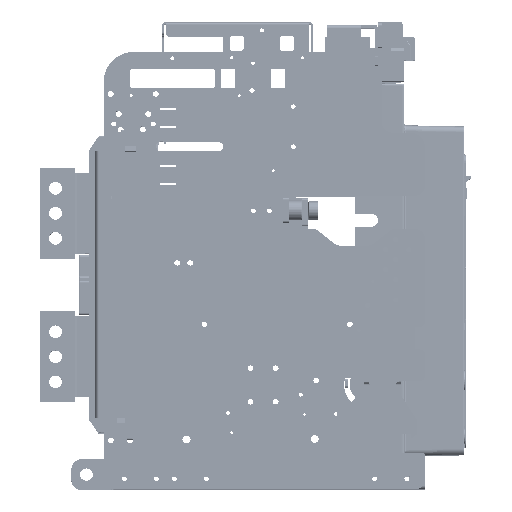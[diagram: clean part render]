
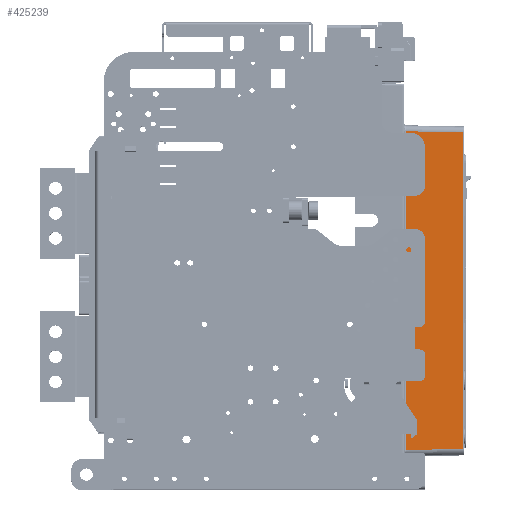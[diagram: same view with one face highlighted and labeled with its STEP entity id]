
A CAD part, top view. The second image highlights one B-rep face of the part: STEP entity #425239.
In plain terms, the highlighted planar face has unit normal (0.018, 0, 1) as drawn and (-1, 0, 0.017) by its records, which use the part's own axes.
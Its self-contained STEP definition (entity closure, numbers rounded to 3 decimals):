
#406619=DIRECTION('',(0.,-1.,0.));
#406620=VECTOR('',#406619,315.942);
#406621=CARTESIAN_POINT('',(-133.97,144.321,
108.017));
#406622=LINE('',#406621,#406620);
#406623=DIRECTION('',(0.017,0.017,1.));
#406624=VECTOR('',#406623,57.07);
#406625=CARTESIAN_POINT('',(-134.966,-172.617,
50.965));
#406626=LINE('',#406625,#406624);
#406627=DIRECTION('',(0.,1.,0.));
#406628=VECTOR('',#406627,317.934);
#406629=CARTESIAN_POINT('',(-134.966,-172.617,
50.965));
#406630=LINE('',#406629,#406628);
#406631=DIRECTION('',(-0.017,0.017,-1.));
#406632=VECTOR('',#406631,57.07);
#406633=CARTESIAN_POINT('',(-133.97,144.321,
108.017));
#406634=LINE('',#406633,#406632);
#421223=CARTESIAN_POINT('',(-133.97,144.321,
108.017));
#424214=CARTESIAN_POINT('',(-134.966,-172.617,
50.965));
#424215=CARTESIAN_POINT('',(-134.966,145.317,
50.965));
#424216=VERTEX_POINT('',#424214);
#424217=VERTEX_POINT('',#424215);
#424255=VERTEX_POINT('',#421223);
#424258=CARTESIAN_POINT('',(-133.97,-171.621,
108.017));
#424259=VERTEX_POINT('',#424258);
#425225=CARTESIAN_POINT('',(-135.,151.35,49.));
#425226=DIRECTION('',(-1.,0.,0.017));
#425227=DIRECTION('',(0.,-1.,0.));
#425228=AXIS2_PLACEMENT_3D('',#425225,#425226,#425227);
#425229=PLANE('',#425228);
#425231=ORIENTED_EDGE('',*,*,#425230,.T.);
#425233=ORIENTED_EDGE('',*,*,#425232,.F.);
#425234=ORIENTED_EDGE('',*,*,#425215,.T.);
#425236=ORIENTED_EDGE('',*,*,#425235,.F.);
#425237=EDGE_LOOP('',(#425231,#425233,#425234,#425236));
#425238=FACE_OUTER_BOUND('',#425237,.F.);
#425239=ADVANCED_FACE('',(#425238),#425229,.T.);
#425215=EDGE_CURVE('',#424216,#424217,#406630,.T.);
#425230=EDGE_CURVE('',#424255,#424259,#406622,.T.);
#425232=EDGE_CURVE('',#424216,#424259,#406626,.T.);
#425235=EDGE_CURVE('',#424255,#424217,#406634,.T.);
